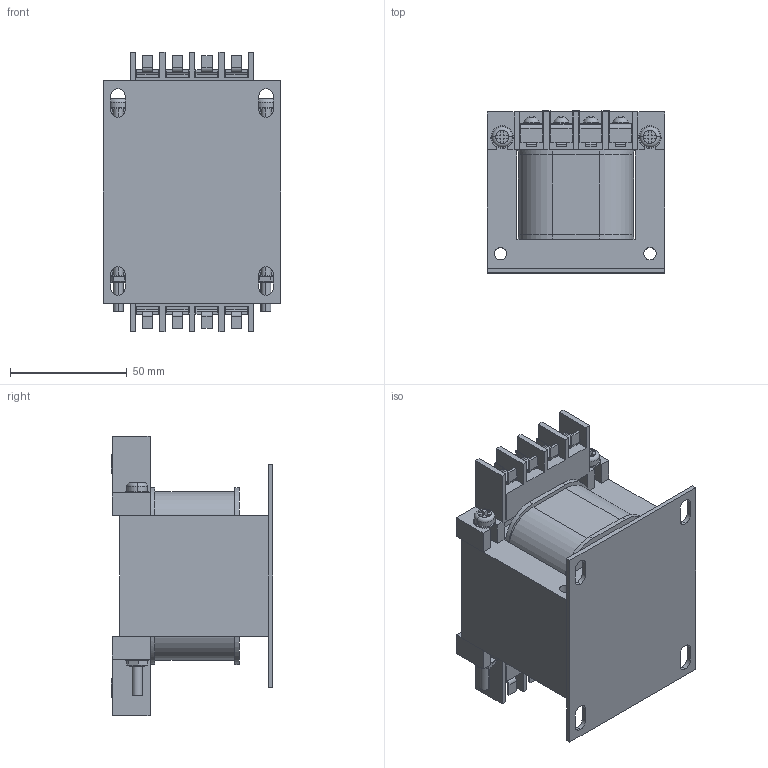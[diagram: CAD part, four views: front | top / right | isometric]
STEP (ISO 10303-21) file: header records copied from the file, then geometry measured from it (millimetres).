
FILE_DESCRIPTION (( 'STEP AP203' ), '1' );
FILE_NAME ('MMT-480V-100VA-48V.STEP', '2025-02-25T22:57:27', ( '' ), ( '' ), 'SwSTEP 2.0', 'SolidWorks 2020', '' );
FILE_SCHEMA (( 'CONFIG_CONTROL_DESIGN' ));
Length unit declared in the file: inch
Products named in the file (1): MMT-480V-100VA-48V
Bounding box: 76.2 x 69.28 x 119.47 mm (x, y, z)
Volume: 332906.4 mm3; surface area: 80588.1 mm2
Topology: 32 solids, 32 shells, 764 faces, 1890 edges, 1196 vertices
Faces by surface type: plane 612, cylinder 136, sphere 8, cone 4, torus 4
Entity records: 22307 total; most frequent: CARTESIAN_POINT 3891, DIRECTION 3832, ORIENTED_EDGE 3748, EDGE_CURVE 1874, LINE 1414, VECTOR 1414, AXIS2_PLACEMENT_3D 1209, VERTEX_POINT 1188
